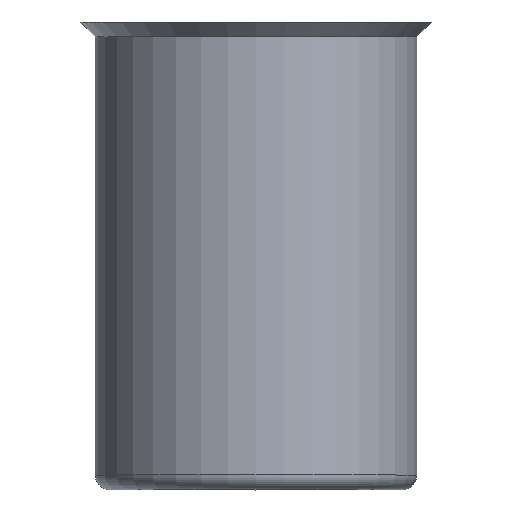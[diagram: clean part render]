
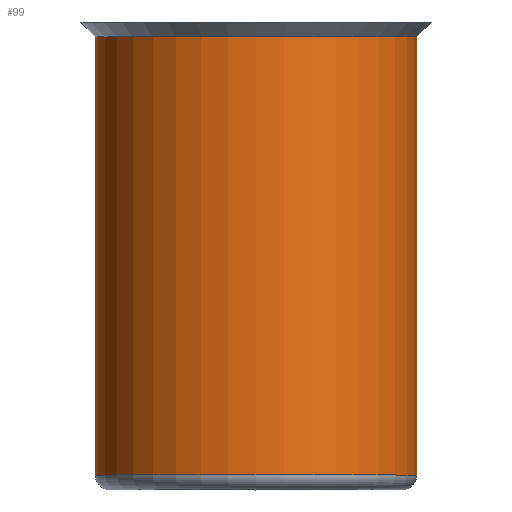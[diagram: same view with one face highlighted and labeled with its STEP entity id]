
A CAD part, top view. The second image highlights one B-rep face of the part: STEP entity #99.
In plain terms, the highlighted cylindrical face has radius 5.5 mm (diameter 11 mm), a full revolution.
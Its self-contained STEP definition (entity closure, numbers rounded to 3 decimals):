
#22 = DIRECTION ( 'NONE',  ( 0., 0., -1. ) ) ;
#25 = VERTEX_POINT ( 'NONE', #154 ) ;
#38 = CIRCLE ( 'NONE', #177, 5.5 ) ;
#43 = CARTESIAN_POINT ( 'NONE',  ( 0., -15.5, 5.5 ) ) ;
#55 = DIRECTION ( 'NONE',  ( 0., -1., 0. ) ) ;
#64 = EDGE_CURVE ( 'NONE', #25, #25, #38, .T. ) ;
#70 = FACE_OUTER_BOUND ( 'NONE', #144, .T. ) ;
#72 = DIRECTION ( 'NONE',  ( 0., 0., 1. ) ) ;
#78 = ORIENTED_EDGE ( 'NONE', *, *, #64, .T. ) ;
#83 = CYLINDRICAL_SURFACE ( 'NONE', #136, 5.5 ) ;
#85 = CARTESIAN_POINT ( 'NONE',  ( 0., -0.5, 0. ) ) ;
#96 = CIRCLE ( 'NONE', #197, 5.5 ) ;
#99 = ADVANCED_FACE ( 'NONE', ( #131, #70 ), #83, .T. ) ;
#105 = DIRECTION ( 'NONE',  ( 0., -1., 0. ) ) ;
#108 = VERTEX_POINT ( 'NONE', #43 ) ;
#110 = EDGE_LOOP ( 'NONE', ( #141 ) ) ;
#131 = FACE_OUTER_BOUND ( 'NONE', #110, .T. ) ;
#134 = EDGE_CURVE ( 'NONE', #108, #108, #96, .T. ) ;
#136 = AXIS2_PLACEMENT_3D ( 'NONE', #145, #55, #181 ) ;
#141 = ORIENTED_EDGE ( 'NONE', *, *, #134, .T. ) ;
#144 = EDGE_LOOP ( 'NONE', ( #78 ) ) ;
#145 = CARTESIAN_POINT ( 'NONE',  ( 0., 0., 0. ) ) ;
#146 = DIRECTION ( 'NONE',  ( 0., 1., 0. ) ) ;
#154 = CARTESIAN_POINT ( 'NONE',  ( 0., -0.5, -5.5 ) ) ;
#177 = AXIS2_PLACEMENT_3D ( 'NONE', #85, #105, #22 ) ;
#181 = DIRECTION ( 'NONE',  ( 0., 0., -1. ) ) ;
#193 = CARTESIAN_POINT ( 'NONE',  ( 0., -15.5, 0. ) ) ;
#197 = AXIS2_PLACEMENT_3D ( 'NONE', #193, #146, #72 ) ;
